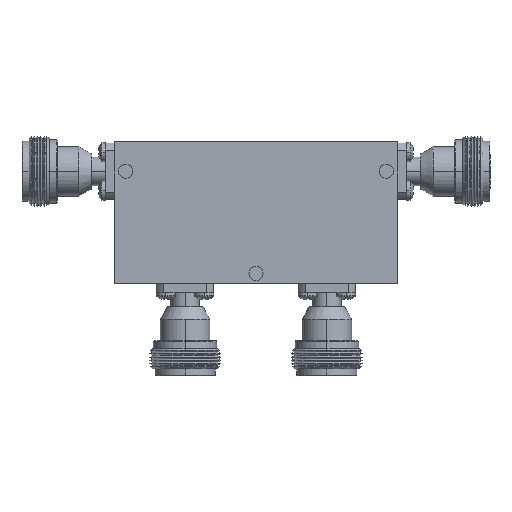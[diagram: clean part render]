
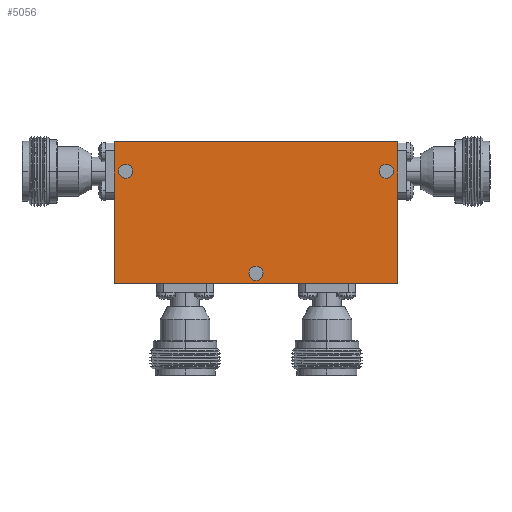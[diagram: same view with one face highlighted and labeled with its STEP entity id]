
A CAD part, top view. The second image highlights one B-rep face of the part: STEP entity #5056.
In plain terms, the highlighted planar face has unit normal (0, 0, 1).
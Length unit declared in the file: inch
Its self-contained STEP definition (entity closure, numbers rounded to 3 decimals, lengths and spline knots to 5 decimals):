
#148 = CARTESIAN_POINT ( 'NONE',  ( -1.25, 0.625, 0.365 ) ) ;
#242 = CARTESIAN_POINT ( 'NONE',  ( -1.25, -0.625, 0.365 ) ) ;
#266 = AXIS2_PLACEMENT_3D ( 'NONE', #4336, #4371, #2246 ) ;
#277 = DIRECTION ( 'NONE',  ( 0., 0., 1. ) ) ;
#416 = CARTESIAN_POINT ( 'NONE',  ( 0., -0.535, 0.365 ) ) ;
#479 = CARTESIAN_POINT ( 'NONE',  ( 1.15, 0.365, 0.365 ) ) ;
#546 = EDGE_LOOP ( 'NONE', ( #1910, #3454, #5410, #5197 ) ) ;
#629 = LINE ( 'NONE', #4206, #1635 ) ;
#809 = AXIS2_PLACEMENT_3D ( 'NONE', #4065, #3216, #1504 ) ;
#873 = EDGE_LOOP ( 'NONE', ( #4983, #3918 ) ) ;
#897 = VERTEX_POINT ( 'NONE', #4974 ) ;
#939 = CARTESIAN_POINT ( 'NONE',  ( 0.0625, -0.535, 0.365 ) ) ;
#948 = AXIS2_PLACEMENT_3D ( 'NONE', #416, #5075, #4260 ) ;
#1099 = CIRCLE ( 'NONE', #5193, 0.0625 ) ;
#1228 = CARTESIAN_POINT ( 'NONE',  ( 1.25, -0.625, 0.365 ) ) ;
#1271 = DIRECTION ( 'NONE',  ( 1., 0., 0. ) ) ;
#1287 = AXIS2_PLACEMENT_3D ( 'NONE', #2866, #4186, #5503 ) ;
#1393 = ORIENTED_EDGE ( 'NONE', *, *, #2855, .F. ) ;
#1504 = DIRECTION ( 'NONE',  ( 1., 0., 0. ) ) ;
#1507 = FACE_BOUND ( 'NONE', #873, .T. ) ;
#1575 = FACE_OUTER_BOUND ( 'NONE', #546, .T. ) ;
#1635 = VECTOR ( 'NONE', #2894, 39.37008 ) ;
#1867 = VERTEX_POINT ( 'NONE', #5504 ) ;
#1871 = EDGE_CURVE ( 'NONE', #4628, #4281, #4513, .T. ) ;
#1895 = VERTEX_POINT ( 'NONE', #3773 ) ;
#1910 = ORIENTED_EDGE ( 'NONE', *, *, #1871, .T. ) ;
#2010 = AXIS2_PLACEMENT_3D ( 'NONE', #479, #4185, #1271 ) ;
#2113 = VECTOR ( 'NONE', #5492, 39.37008 ) ;
#2186 = CIRCLE ( 'NONE', #1287, 0.0625 ) ;
#2196 = ORIENTED_EDGE ( 'NONE', *, *, #4850, .F. ) ;
#2246 = DIRECTION ( 'NONE',  ( 1., 0., 0. ) ) ;
#2378 = FACE_BOUND ( 'NONE', #2676, .T. ) ;
#2424 = CARTESIAN_POINT ( 'NONE',  ( -0.0625, -0.535, 0.365 ) ) ;
#2448 = CARTESIAN_POINT ( 'NONE',  ( -1.25, 0.625, 0.365 ) ) ;
#2676 = EDGE_LOOP ( 'NONE', ( #5269, #2196 ) ) ;
#2739 = EDGE_CURVE ( 'NONE', #3919, #897, #3229, .T. ) ;
#2789 = CIRCLE ( 'NONE', #809, 0.0625 ) ;
#2855 = EDGE_CURVE ( 'NONE', #3083, #3380, #2967, .T. ) ;
#2866 = CARTESIAN_POINT ( 'NONE',  ( 0., -0.535, 0.365 ) ) ;
#2894 = DIRECTION ( 'NONE',  ( 1., 0., 0. ) ) ;
#2967 = CIRCLE ( 'NONE', #948, 0.0625 ) ;
#2993 = ORIENTED_EDGE ( 'NONE', *, *, #4007, .F. ) ;
#3083 = VERTEX_POINT ( 'NONE', #939 ) ;
#3092 = VECTOR ( 'NONE', #3156, 39.37008 ) ;
#3097 = CIRCLE ( 'NONE', #2010, 0.0625 ) ;
#3142 = EDGE_CURVE ( 'NONE', #1895, #5011, #3492, .T. ) ;
#3156 = DIRECTION ( 'NONE',  ( 0., -1., 0. ) ) ;
#3191 = LINE ( 'NONE', #2448, #3513 ) ;
#3216 = DIRECTION ( 'NONE',  ( 0., 0., 1. ) ) ;
#3229 = CIRCLE ( 'NONE', #266, 0.0625 ) ;
#3259 = CARTESIAN_POINT ( 'NONE',  ( 1.2125, 0.365, 0.365 ) ) ;
#3308 = DIRECTION ( 'NONE',  ( 1., 0., 0. ) ) ;
#3380 = VERTEX_POINT ( 'NONE', #2424 ) ;
#3454 = ORIENTED_EDGE ( 'NONE', *, *, #4148, .T. ) ;
#3492 = LINE ( 'NONE', #148, #3092 ) ;
#3513 = VECTOR ( 'NONE', #4676, 39.37008 ) ;
#3773 = CARTESIAN_POINT ( 'NONE',  ( -1.25, 0.625, 0.365 ) ) ;
#3885 = EDGE_CURVE ( 'NONE', #897, #3919, #2789, .T. ) ;
#3918 = ORIENTED_EDGE ( 'NONE', *, *, #2739, .F. ) ;
#3919 = VERTEX_POINT ( 'NONE', #4224 ) ;
#4007 = EDGE_CURVE ( 'NONE', #3380, #3083, #2186, .T. ) ;
#4065 = CARTESIAN_POINT ( 'NONE',  ( -1.15, 0.365, 0.365 ) ) ;
#4119 = CARTESIAN_POINT ( 'NONE',  ( 1.25, 0.625, 0.365 ) ) ;
#4135 = EDGE_LOOP ( 'NONE', ( #1393, #2993 ) ) ;
#4148 = EDGE_CURVE ( 'NONE', #4281, #1895, #3191, .T. ) ;
#4157 = PLANE ( 'NONE',  #4654 ) ;
#4185 = DIRECTION ( 'NONE',  ( 0., 0., 1. ) ) ;
#4186 = DIRECTION ( 'NONE',  ( 0., 0., 1. ) ) ;
#4206 = CARTESIAN_POINT ( 'NONE',  ( -1.25, -0.625, 0.365 ) ) ;
#4224 = CARTESIAN_POINT ( 'NONE',  ( -1.2125, 0.365, 0.365 ) ) ;
#4260 = DIRECTION ( 'NONE',  ( 1., 0., 0. ) ) ;
#4281 = VERTEX_POINT ( 'NONE', #5253 ) ;
#4336 = CARTESIAN_POINT ( 'NONE',  ( -1.15, 0.365, 0.365 ) ) ;
#4371 = DIRECTION ( 'NONE',  ( 0., 0., 1. ) ) ;
#4441 = DIRECTION ( 'NONE',  ( 0., 0., 1. ) ) ;
#4513 = LINE ( 'NONE', #4119, #2113 ) ;
#4628 = VERTEX_POINT ( 'NONE', #1228 ) ;
#4654 = AXIS2_PLACEMENT_3D ( 'NONE', #4967, #277, #3308 ) ;
#4676 = DIRECTION ( 'NONE',  ( -1., 0., 0. ) ) ;
#4839 = FACE_BOUND ( 'NONE', #4135, .T. ) ;
#4850 = EDGE_CURVE ( 'NONE', #1867, #4942, #1099, .T. ) ;
#4942 = VERTEX_POINT ( 'NONE', #3259 ) ;
#4967 = CARTESIAN_POINT ( 'NONE',  ( 0., 0., 0.365 ) ) ;
#4974 = CARTESIAN_POINT ( 'NONE',  ( -1.0875, 0.365, 0.365 ) ) ;
#4983 = ORIENTED_EDGE ( 'NONE', *, *, #3885, .F. ) ;
#5011 = VERTEX_POINT ( 'NONE', #242 ) ;
#5056 = ADVANCED_FACE ( 'NONE', ( #2378, #4839, #1507, #1575 ), #4157, .T. ) ;
#5075 = DIRECTION ( 'NONE',  ( 0., 0., 1. ) ) ;
#5193 = AXIS2_PLACEMENT_3D ( 'NONE', #5308, #4441, #5231 ) ;
#5197 = ORIENTED_EDGE ( 'NONE', *, *, #5511, .T. ) ;
#5231 = DIRECTION ( 'NONE',  ( 1., 0., 0. ) ) ;
#5253 = CARTESIAN_POINT ( 'NONE',  ( 1.25, 0.625, 0.365 ) ) ;
#5269 = ORIENTED_EDGE ( 'NONE', *, *, #5404, .F. ) ;
#5308 = CARTESIAN_POINT ( 'NONE',  ( 1.15, 0.365, 0.365 ) ) ;
#5404 = EDGE_CURVE ( 'NONE', #4942, #1867, #3097, .T. ) ;
#5410 = ORIENTED_EDGE ( 'NONE', *, *, #3142, .T. ) ;
#5492 = DIRECTION ( 'NONE',  ( 0., 1., 0. ) ) ;
#5503 = DIRECTION ( 'NONE',  ( 1., 0., 0. ) ) ;
#5504 = CARTESIAN_POINT ( 'NONE',  ( 1.0875, 0.365, 0.365 ) ) ;
#5511 = EDGE_CURVE ( 'NONE', #5011, #4628, #629, .T. ) ;
